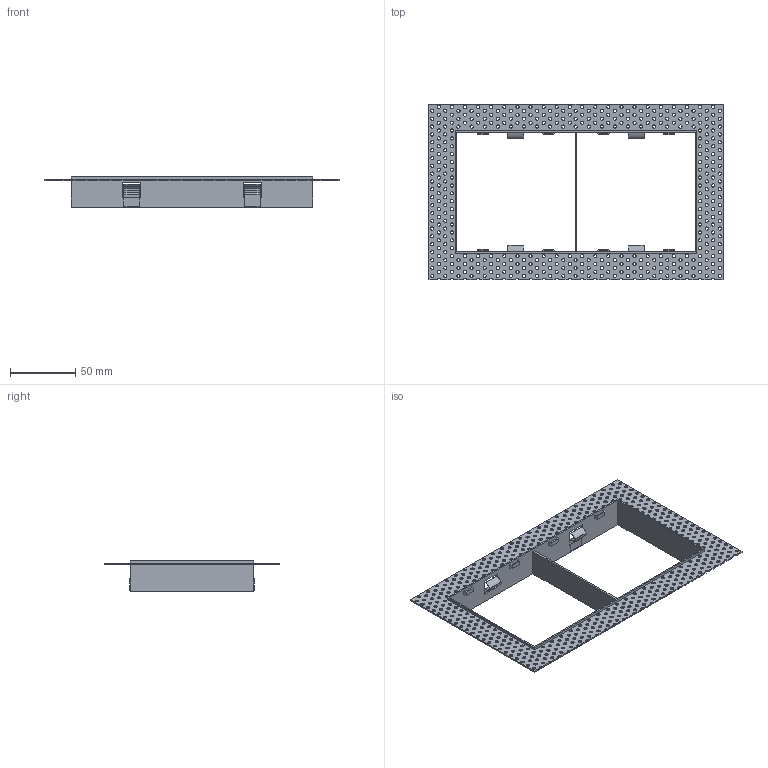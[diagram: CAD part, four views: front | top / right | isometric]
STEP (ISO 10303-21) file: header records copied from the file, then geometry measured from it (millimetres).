
FILE_DESCRIPTION(/* description */ (''),/* implementation_level */ '2;1');
FILE_NAME(/* name */ 'C:\Users\FrancoSartori\Documents\FARO\01_En Proceso\0000_2022\000_PRO\000_PODIUM\03_Publicación\02 PODIUM EMPOTRADO SIN MARCO 2.stp',/* time_stamp */ '2022-05-12T13:44:41+02:00',/* author */ ('FrancoSartori'),/* organization */ (''),/* preprocessor_version */ 'ST-DEVELOPER v19',/* originating_system */ 'AutoCAD Mechanical',/* authorisation */ '');
FILE_SCHEMA (('AUTOMOTIVE_DESIGN { 1 0 10303 214 3 1 1 }'));
Length unit declared in the file: millimetre
Products named in the file (2): Product; 02 PODIUM EMPOTRADO SIN MARCO 2_ - Lamp-682783-View 1
Assembly tree (1 placements, depth 2):
  Product
    02 PODIUM EMPOTRADO SIN MARCO 2_ - Lamp-682783-View 1
Bounding box: 224.5 x 134 x 23 mm (x, y, z)
Volume: 28718.6 mm3; surface area: 57615.2 mm2
Topology: 5 solids, 5 shells, 1007 faces, 2988 edges, 1992 vertices
Faces by surface type: cylinder 842, plane 165
Entity records: 36367 total; most frequent: DIRECTION 6692, CARTESIAN_POINT 5990, ORIENTED_EDGE 5976, EDGE_CURVE 2988, AXIS2_PLACEMENT_3D 2694, VERTEX_POINT 1992, EDGE_LOOP 1832, CIRCLE 1684
